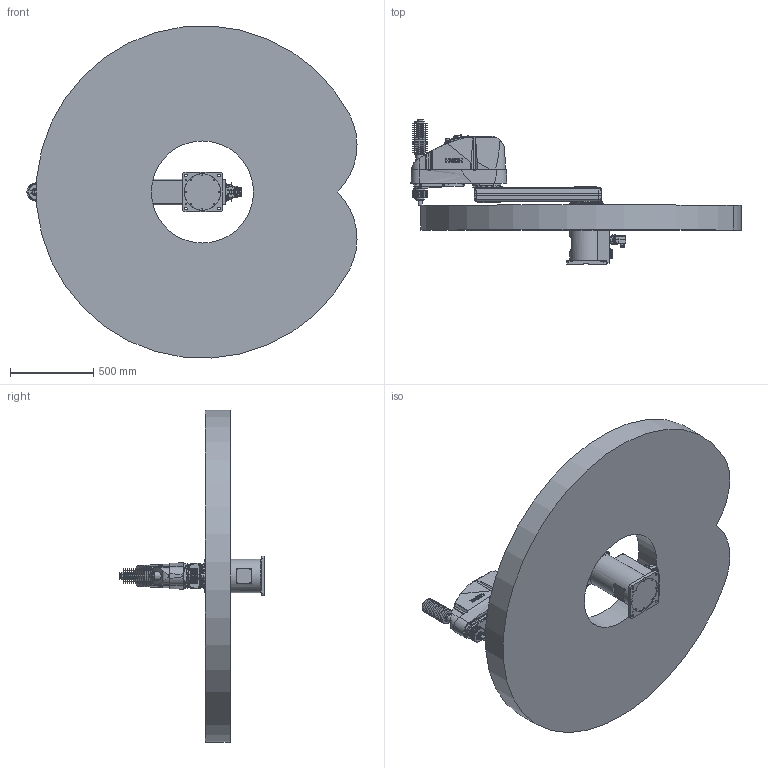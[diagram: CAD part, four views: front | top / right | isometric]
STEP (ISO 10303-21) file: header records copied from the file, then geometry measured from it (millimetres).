
FILE_DESCRIPTION( ( 'STEP AP214' ), '1' );
FILE_NAME( 'C:/Users/9607552/Desktop/GX20-BA01C_langle.stp', '2023-08-01T09:42:37', ( '' ), ( '' ), ' ', 'PARTsolutions', ' ' );
FILE_SCHEMA( ( 'AUTOMOTIVE_DESIGN { 1 0 10303 214 1 1 1 1 }' ) );
Length unit declared in the file: millimetre
Products named in the file (7): GX20-BA01CA-W; _Base c; _Angle-B; _J1 Arm GX10-600; _J2 Arm GX10-c; _J3 Arm GX10-c (1); _GX10_20B-25_1
Assembly tree (6 placements, depth 2):
  GX20-BA01CA-W
    _Base c
    _Angle-B
    _J1 Arm GX10-600
    _J2 Arm GX10-c
    _J3 Arm GX10-c (1)
    _GX10_20B-25_1
Bounding box: 1985.18 x 870.5 x 1997.01 mm (x, y, z)
Volume: 461801577.6 mm3; surface area: 8595159.7 mm2
Topology: 6 solids, 6 shells, 2445 faces, 6018 edges, 3914 vertices
Faces by surface type: plane 1288, cylinder 736, cone 316, torus 67, bspline 37, sphere 1
Full cylindrical faces by diameter (mm): 1.18 x55, 2.5 x2, 3 x32, 3.242 x10, 3.3 x9, 4 x2, 4.2 x2, 4.8 x4, 5.1 x4, 5.34 x4, 5.5 x12, 6 x3, 6.2 x2, 6.647 x2, 7 x27, 7.5 x1, 8 x4, 8.5 x2, 9 x4, 10 x32, 10.5 x4, 11 x14, 12 x7, 12.25 x1, 13 x2, 14 x8, 14.25 x1, 16 x7, 18 x1, 20.4 x1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
Entity records: 92476 total; most frequent: CARTESIAN_POINT 17353, DIRECTION 11527, ORIENTED_EDGE 10588, EDGE_CURVE 5294, AXIS2_PLACEMENT_3D 4368, VERTEX_POINT 3813, EDGE_LOOP 3428, FACE_OUTER_BOUND 2797
